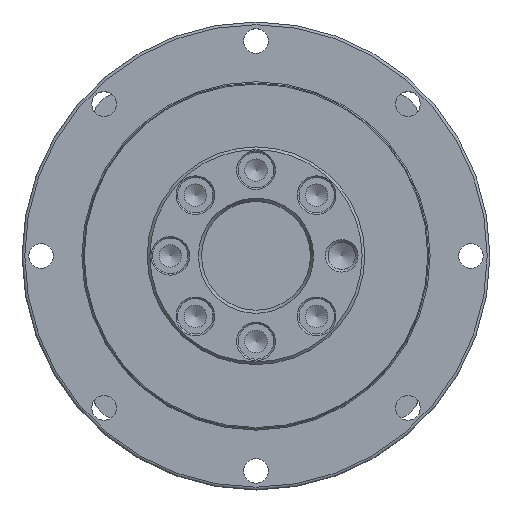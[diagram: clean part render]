
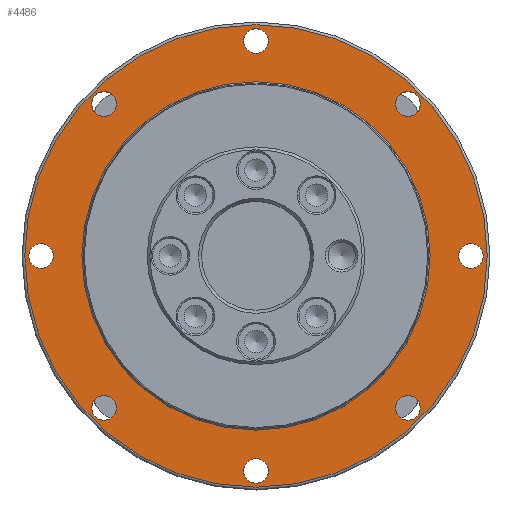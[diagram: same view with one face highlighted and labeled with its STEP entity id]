
A CAD part, top view. The second image highlights one B-rep face of the part: STEP entity #4486.
In plain terms, the highlighted planar face has unit normal (0, 0, 1).
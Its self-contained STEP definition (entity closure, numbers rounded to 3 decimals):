
#4364=CARTESIAN_POINT('',(42.5,0.,6.));
#4365=VERTEX_POINT('',#4364);
#4366=CARTESIAN_POINT('',(0.0,0.0,6.));
#4367=DIRECTION('',(0.0,0.0,-1.0));
#4368=DIRECTION('',(-1.0,0.0,0.0));
#4369=AXIS2_PLACEMENT_3D('',#4366,#4367,#4368);
#4370=CIRCLE('',#4369,42.5);
#4371=EDGE_CURVE('',#4365,#4365,#4370,.T.);
#4379=CARTESIAN_POINT('',(0.0,0.0,6.));
#4380=DIRECTION('',(0.0,0.0,-1.0));
#4381=DIRECTION('',(-1.0,0.0,0.0));
#4382=AXIS2_PLACEMENT_3D('',#4379,#4380,#4381);
#4383=PLANE('',#4382);
#4384=ORIENTED_EDGE('',*,*,#4371,.F.);
#4385=EDGE_LOOP('',(#4384));
#4386=FACE_OUTER_BOUND('',#4385,.T.);
#4387=CARTESIAN_POINT('',(32.0,0.,6.));
#4388=VERTEX_POINT('',#4387);
#4389=CARTESIAN_POINT('',(0.0,0.0,6.));
#4390=DIRECTION('',(0.0,0.0,-1.0));
#4391=DIRECTION('',(-1.0,0.0,0.0));
#4392=AXIS2_PLACEMENT_3D('',#4389,#4390,#4391);
#4393=CIRCLE('',#4392,32.0);
#4394=EDGE_CURVE('',#4388,#4388,#4393,.T.);
#4395=ORIENTED_EDGE('',*,*,#4394,.T.);
#4396=EDGE_LOOP('',(#4395));
#4397=FACE_BOUND('',#4396,.T.);
#4398=CARTESIAN_POINT('',(2.25,39.5,6.));
#4399=VERTEX_POINT('',#4398);
#4400=CARTESIAN_POINT('',(0.0,39.5,6.));
#4401=DIRECTION('',(0.0,0.0,-1.0));
#4402=DIRECTION('',(-1.0,0.0,0.0));
#4403=AXIS2_PLACEMENT_3D('',#4400,#4401,#4402);
#4404=CIRCLE('',#4403,2.25);
#4405=EDGE_CURVE('',#4399,#4399,#4404,.T.);
#4406=ORIENTED_EDGE('',*,*,#4405,.T.);
#4407=EDGE_LOOP('',(#4406));
#4408=FACE_BOUND('',#4407,.T.);
#4409=CARTESIAN_POINT('',(-26.34,29.522,6.));
#4410=VERTEX_POINT('',#4409);
#4411=CARTESIAN_POINT('',(-27.931,27.931,6.));
#4412=DIRECTION('',(0.0,0.0,-1.0));
#4413=DIRECTION('',(-0.707,-0.707,0.0));
#4414=AXIS2_PLACEMENT_3D('',#4411,#4412,#4413);
#4415=CIRCLE('',#4414,2.25);
#4416=EDGE_CURVE('',#4410,#4410,#4415,.T.);
#4417=ORIENTED_EDGE('',*,*,#4416,.T.);
#4418=EDGE_LOOP('',(#4417));
#4419=FACE_BOUND('',#4418,.T.);
#4420=CARTESIAN_POINT('',(-39.5,2.25,6.));
#4421=VERTEX_POINT('',#4420);
#4422=CARTESIAN_POINT('',(-39.5,0.0,6.));
#4423=DIRECTION('',(0.0,0.0,-1.0));
#4424=DIRECTION('',(0.0,-1.0,0.0));
#4425=AXIS2_PLACEMENT_3D('',#4422,#4423,#4424);
#4426=CIRCLE('',#4425,2.25);
#4427=EDGE_CURVE('',#4421,#4421,#4426,.T.);
#4428=ORIENTED_EDGE('',*,*,#4427,.T.);
#4429=EDGE_LOOP('',(#4428));
#4430=FACE_BOUND('',#4429,.T.);
#4431=CARTESIAN_POINT('',(-29.522,-26.34,6.));
#4432=VERTEX_POINT('',#4431);
#4433=CARTESIAN_POINT('',(-27.931,-27.931,6.));
#4434=DIRECTION('',(0.0,0.0,-1.0));
#4435=DIRECTION('',(0.707,-0.707,0.0));
#4436=AXIS2_PLACEMENT_3D('',#4433,#4434,#4435);
#4437=CIRCLE('',#4436,2.25);
#4438=EDGE_CURVE('',#4432,#4432,#4437,.T.);
#4439=ORIENTED_EDGE('',*,*,#4438,.T.);
#4440=EDGE_LOOP('',(#4439));
#4441=FACE_BOUND('',#4440,.T.);
#4442=CARTESIAN_POINT('',(-2.25,-39.5,6.));
#4443=VERTEX_POINT('',#4442);
#4444=CARTESIAN_POINT('',(0.,-39.5,6.));
#4445=DIRECTION('',(0.0,0.0,-1.0));
#4446=DIRECTION('',(1.0,0.0,0.0));
#4447=AXIS2_PLACEMENT_3D('',#4444,#4445,#4446);
#4448=CIRCLE('',#4447,2.25);
#4449=EDGE_CURVE('',#4443,#4443,#4448,.T.);
#4450=ORIENTED_EDGE('',*,*,#4449,.T.);
#4451=EDGE_LOOP('',(#4450));
#4452=FACE_BOUND('',#4451,.T.);
#4453=CARTESIAN_POINT('',(26.34,-29.522,6.));
#4454=VERTEX_POINT('',#4453);
#4455=CARTESIAN_POINT('',(27.931,-27.931,6.));
#4456=DIRECTION('',(0.0,0.0,-1.0));
#4457=DIRECTION('',(0.707,0.707,0.0));
#4458=AXIS2_PLACEMENT_3D('',#4455,#4456,#4457);
#4459=CIRCLE('',#4458,2.25);
#4460=EDGE_CURVE('',#4454,#4454,#4459,.T.);
#4461=ORIENTED_EDGE('',*,*,#4460,.T.);
#4462=EDGE_LOOP('',(#4461));
#4463=FACE_BOUND('',#4462,.T.);
#4464=CARTESIAN_POINT('',(39.5,-2.25,6.));
#4465=VERTEX_POINT('',#4464);
#4466=CARTESIAN_POINT('',(39.5,0.,6.));
#4467=DIRECTION('',(0.0,0.0,-1.0));
#4468=DIRECTION('',(0.0,1.0,0.0));
#4469=AXIS2_PLACEMENT_3D('',#4466,#4467,#4468);
#4470=CIRCLE('',#4469,2.25);
#4471=EDGE_CURVE('',#4465,#4465,#4470,.T.);
#4472=ORIENTED_EDGE('',*,*,#4471,.T.);
#4473=EDGE_LOOP('',(#4472));
#4474=FACE_BOUND('',#4473,.T.);
#4475=CARTESIAN_POINT('',(29.522,26.34,6.));
#4476=VERTEX_POINT('',#4475);
#4477=CARTESIAN_POINT('',(27.931,27.931,6.));
#4478=DIRECTION('',(0.0,0.0,-1.0));
#4479=DIRECTION('',(-0.707,0.707,0.0));
#4480=AXIS2_PLACEMENT_3D('',#4477,#4478,#4479);
#4481=CIRCLE('',#4480,2.25);
#4482=EDGE_CURVE('',#4476,#4476,#4481,.T.);
#4483=ORIENTED_EDGE('',*,*,#4482,.T.);
#4484=EDGE_LOOP('',(#4483));
#4485=FACE_BOUND('',#4484,.T.);
#4486=ADVANCED_FACE('',(#4386,#4397,#4408,#4419,#4430,#4441,#4452,#4463,#4474,#4485),#4383,.F.);
